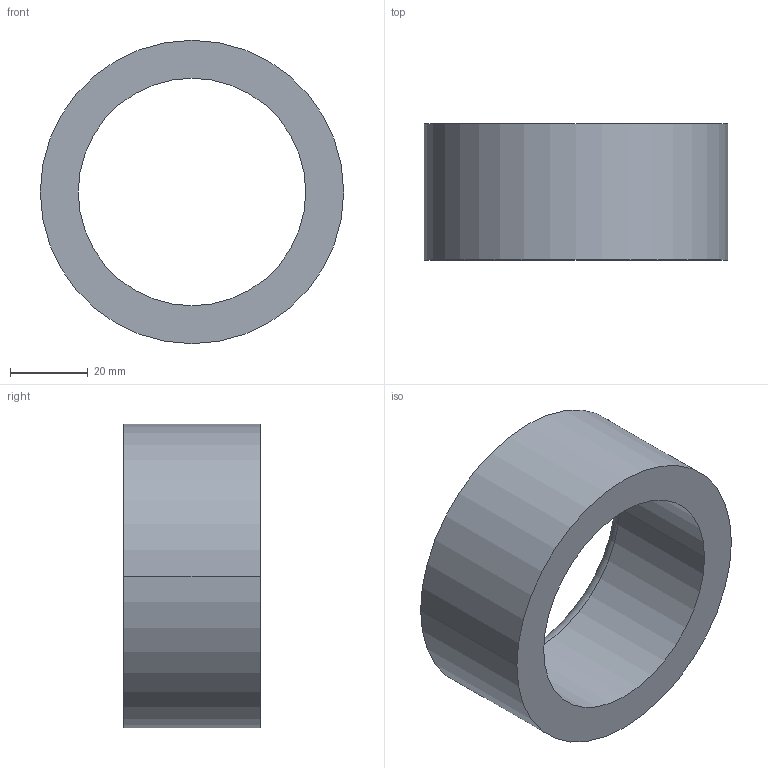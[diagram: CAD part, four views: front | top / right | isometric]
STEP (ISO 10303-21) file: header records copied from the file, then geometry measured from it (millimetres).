
FILE_DESCRIPTION (( 'STEP AP203' ), '1' );
FILE_NAME ('30800.WPP78M58.5.step', '2019-01-23T23:03:11', ( '' ), ( '' ), 'SwSTEP 2.0', 'SolidWorks 2017', '' );
FILE_SCHEMA (( 'CONFIG_CONTROL_DESIGN' ));
Length unit declared in the file: millimetre
Products named in the file (1): 30800.WPP78M58.5
Bounding box: 78 x 35 x 78 mm (x, y, z)
Volume: 72518.4 mm3; surface area: 18881.6 mm2
Topology: 1 solids, 1 shells, 8 faces, 16 edges, 10 vertices
Faces by surface type: cylinder 4, torus 2, plane 2
Entity records: 297 total; most frequent: DIRECTION 46, CARTESIAN_POINT 35, ORIENTED_EDGE 32, AXIS2_PLACEMENT_3D 21, EDGE_CURVE 16, CIRCLE 12, EDGE_LOOP 10, VERTEX_POINT 10
